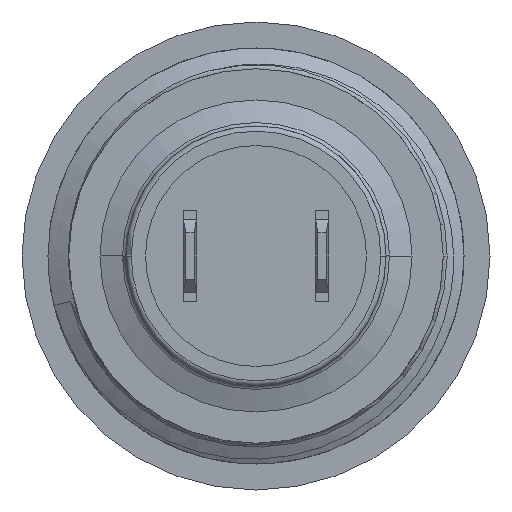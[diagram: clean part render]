
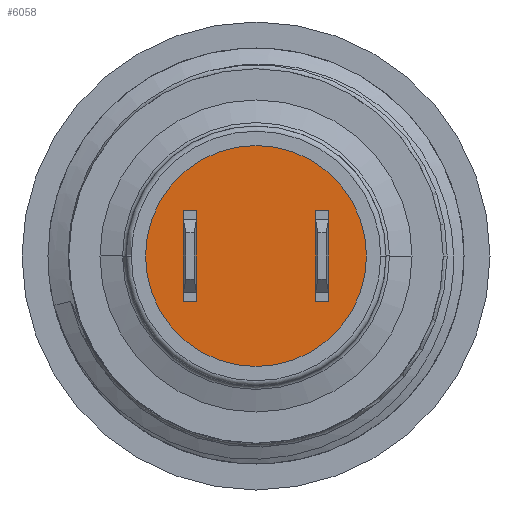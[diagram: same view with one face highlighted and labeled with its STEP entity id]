
A CAD part, front view. The second image highlights one B-rep face of the part: STEP entity #6058.
In plain terms, the highlighted planar face has unit normal (0, -1, 0).
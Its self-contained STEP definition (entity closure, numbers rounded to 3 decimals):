
#1515=CARTESIAN_POINT('',(0.,-13.52,0.));
#1516=DIRECTION('',(0.,1.,0.));
#1517=DIRECTION('',(0.,0.,1.));
#1518=AXIS2_PLACEMENT_3D('',#1515,#1516,#1517);
#1520=CARTESIAN_POINT('',(0.,-13.52,0.));
#1521=DIRECTION('',(0.,1.,0.));
#1522=DIRECTION('',(0.,0.,-1.));
#1523=AXIS2_PLACEMENT_3D('',#1520,#1521,#1522);
#2122=CARTESIAN_POINT('',(0.,-13.52,4.25));
#2123=CARTESIAN_POINT('',(0.,-13.52,-4.25));
#2124=VERTEX_POINT('',#2122);
#2125=VERTEX_POINT('',#2123);
#6047=CARTESIAN_POINT('',(0.,-13.52,0.));
#6048=DIRECTION('',(0.,-1.,0.));
#6049=DIRECTION('',(0.,0.,-1.));
#6050=AXIS2_PLACEMENT_3D('',#6047,#6048,#6049);
#6051=PLANE('',#6050);
#6053=ORIENTED_EDGE('',*,*,#6052,.T.);
#6055=ORIENTED_EDGE('',*,*,#6054,.T.);
#6056=EDGE_LOOP('',(#6053,#6055));
#6057=FACE_OUTER_BOUND('',#6056,.F.);
#6058=ADVANCED_FACE('',(#6057),#6051,.T.);
#1519=CIRCLE('',#1518,4.25);
#1524=CIRCLE('',#1523,4.25);
#6052=EDGE_CURVE('',#2124,#2125,#1519,.T.);
#6054=EDGE_CURVE('',#2125,#2124,#1524,.T.);
